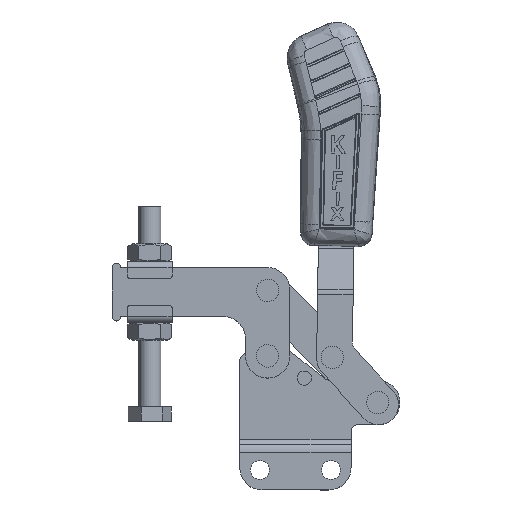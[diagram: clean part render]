
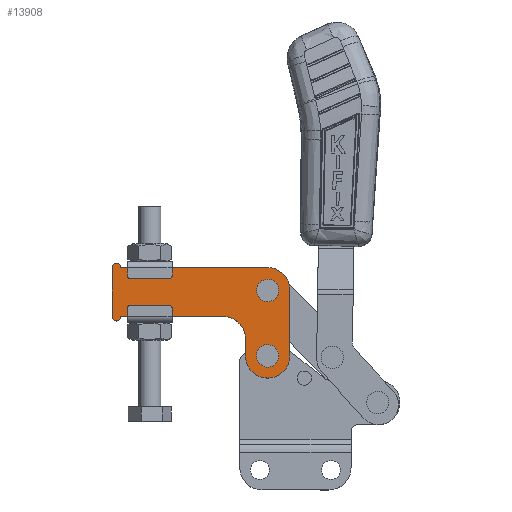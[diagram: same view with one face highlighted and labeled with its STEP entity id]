
A CAD part, top view. The second image highlights one B-rep face of the part: STEP entity #13908.
In plain terms, the highlighted planar face has unit normal (0, 0, 1) as drawn and (0, 0, -1) by its records, which use the part's own axes.
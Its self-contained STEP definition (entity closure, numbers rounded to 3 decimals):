
#452 = AXIS2_PLACEMENT_3D ( 'NONE', #15830, #4428, #17766 ) ;
#594 = CARTESIAN_POINT ( 'NONE',  ( 0., 11., -4.25 ) ) ;
#966 = LINE ( 'NONE', #16435, #14972 ) ;
#1053 = DIRECTION ( 'NONE',  ( 0., 0., 1. ) ) ;
#1580 = ORIENTED_EDGE ( 'NONE', *, *, #18122, .T. ) ;
#1714 = CIRCLE ( 'NONE', #21487, 10. ) ;
#1853 = VERTEX_POINT ( 'NONE', #18951 ) ;
#2047 = VERTEX_POINT ( 'NONE', #10025 ) ;
#2445 = AXIS2_PLACEMENT_3D ( 'NONE', #19824, #8447, #21727 ) ;
#2582 = CARTESIAN_POINT ( 'NONE',  ( 70., 28.7, -4.25 ) ) ;
#2654 = ORIENTED_EDGE ( 'NONE', *, *, #4247, .F. ) ;
#3403 = VERTEX_POINT ( 'NONE', #21213 ) ;
#4246 = DIRECTION ( 'NONE',  ( 0., -1., 0. ) ) ;
#4247 = EDGE_CURVE ( 'NONE', #16328, #12734, #17534, .T. ) ;
#4290 = DIRECTION ( 'NONE',  ( 0., -1., 0. ) ) ;
#4326 = VERTEX_POINT ( 'NONE', #12880 ) ;
#4349 = ORIENTED_EDGE ( 'NONE', *, *, #17379, .F. ) ;
#4428 = DIRECTION ( 'NONE',  ( 0., 0., -1. ) ) ;
#4478 = AXIS2_PLACEMENT_3D ( 'NONE', #14694, #18536, #7128 ) ;
#4497 = DIRECTION ( 'NONE',  ( 1., 0., 0. ) ) ;
#4506 = CARTESIAN_POINT ( 'NONE',  ( 70., -0.7, -4.25 ) ) ;
#4615 = VERTEX_POINT ( 'NONE', #10360 ) ;
#4735 = ORIENTED_EDGE ( 'NONE', *, *, #10882, .F. ) ;
#4891 = EDGE_CURVE ( 'NONE', #1853, #7510, #14223, .T. ) ;
#5140 = AXIS2_PLACEMENT_3D ( 'NONE', #12468, #1053, #14364 ) ;
#5443 = DIRECTION ( 'NONE',  ( 0., 0., 1. ) ) ;
#6372 = CARTESIAN_POINT ( 'NONE',  ( 50., 11., -4.25 ) ) ;
#6445 = ORIENTED_EDGE ( 'NONE', *, *, #14733, .F. ) ;
#6451 = DIRECTION ( 'NONE',  ( 1., 0., 0. ) ) ;
#7128 = DIRECTION ( 'NONE',  ( -1., 0., 0. ) ) ;
#7397 = CARTESIAN_POINT ( 'NONE',  ( 4., -11., -4.25 ) ) ;
#7446 = DIRECTION ( 'NONE',  ( -1., 0., 0. ) ) ;
#7510 = VERTEX_POINT ( 'NONE', #9846 ) ;
#7611 = EDGE_CURVE ( 'NONE', #18051, #19396, #23663, .T. ) ;
#7641 = VECTOR ( 'NONE', #22584, 1000. ) ;
#8447 = DIRECTION ( 'NONE',  ( 0., 0., 1. ) ) ;
#8485 = EDGE_LOOP ( 'NONE', ( #17957, #20807 ) ) ;
#9022 = CARTESIAN_POINT ( 'NONE',  ( 80., -1., -4.25 ) ) ;
#9167 = LINE ( 'NONE', #594, #14224 ) ;
#9846 = CARTESIAN_POINT ( 'NONE',  ( 60., 28.7, -4.25 ) ) ;
#9948 = EDGE_LOOP ( 'NONE', ( #2654, #4735, #16346, #13318, #10937, #6445, #18291, #4349, #23753, #10727 ) ) ;
#10025 = CARTESIAN_POINT ( 'NONE',  ( 74., -0.7, -4.25 ) ) ;
#10042 = VECTOR ( 'NONE', #20394, 1000. ) ;
#10096 = VERTEX_POINT ( 'NONE', #11581 ) ;
#10360 = CARTESIAN_POINT ( 'NONE',  ( 66., 28.7, -4.25 ) ) ;
#10382 = DIRECTION ( 'NONE',  ( 0., 0., 1. ) ) ;
#10622 = CARTESIAN_POINT ( 'NONE',  ( 70., 28.7, -4.25 ) ) ;
#10627 = EDGE_CURVE ( 'NONE', #7510, #18051, #14087, .T. ) ;
#10631 = LINE ( 'NONE', #9022, #10042 ) ;
#10727 = ORIENTED_EDGE ( 'NONE', *, *, #23838, .F. ) ;
#10740 = DIRECTION ( 'NONE',  ( 0., 0., 1. ) ) ;
#10875 = PLANE ( 'NONE',  #4478 ) ;
#10882 = EDGE_CURVE ( 'NONE', #19396, #16328, #966, .T. ) ;
#10937 = ORIENTED_EDGE ( 'NONE', *, *, #4891, .F. ) ;
#11129 = CARTESIAN_POINT ( 'NONE',  ( 66., -0.7, -4.25 ) ) ;
#11259 = CIRCLE ( 'NONE', #20254, 4. ) ;
#11581 = CARTESIAN_POINT ( 'NONE',  ( 0., -11., -4.25 ) ) ;
#12049 = CIRCLE ( 'NONE', #22571, 4. ) ;
#12468 = CARTESIAN_POINT ( 'NONE',  ( 2., -11., -4.25 ) ) ;
#12544 = DIRECTION ( 'NONE',  ( 1., 0., 0. ) ) ;
#12599 = EDGE_CURVE ( 'NONE', #10096, #13962, #21070, .T. ) ;
#12716 = VERTEX_POINT ( 'NONE', #11129 ) ;
#12734 = VERTEX_POINT ( 'NONE', #22579 ) ;
#12880 = CARTESIAN_POINT ( 'NONE',  ( 74., 28.7, -4.25 ) ) ;
#13263 = CIRCLE ( 'NONE', #21113, 4. ) ;
#13318 = ORIENTED_EDGE ( 'NONE', *, *, #10627, .F. ) ;
#13750 = CARTESIAN_POINT ( 'NONE',  ( 60., 21., -4.25 ) ) ;
#13812 = EDGE_CURVE ( 'NONE', #4615, #4326, #11259, .T. ) ;
#13908 = ADVANCED_FACE ( 'NONE', ( #20754, #20171, #21349 ), #10875, .T. ) ;
#13962 = VERTEX_POINT ( 'NONE', #17025 ) ;
#14087 = LINE ( 'NONE', #21490, #22984 ) ;
#14223 = CIRCLE ( 'NONE', #2445, 10. ) ;
#14224 = VECTOR ( 'NONE', #4246, 1000. ) ;
#14364 = DIRECTION ( 'NONE',  ( 1., 0., 0. ) ) ;
#14694 = CARTESIAN_POINT ( 'NONE',  ( 2., 11., -4.25 ) ) ;
#14733 = EDGE_CURVE ( 'NONE', #3403, #1853, #10631, .T. ) ;
#14972 = VECTOR ( 'NONE', #7446, 1000. ) ;
#15364 = AXIS2_PLACEMENT_3D ( 'NONE', #21767, #10382, #23656 ) ;
#15830 = CARTESIAN_POINT ( 'NONE',  ( 50., 21., -4.25 ) ) ;
#15906 = DIRECTION ( 'NONE',  ( 0., 0., 1. ) ) ;
#16328 = VERTEX_POINT ( 'NONE', #21908 ) ;
#16346 = ORIENTED_EDGE ( 'NONE', *, *, #7611, .F. ) ;
#16435 = CARTESIAN_POINT ( 'NONE',  ( 50., 11., -4.25 ) ) ;
#16843 = CARTESIAN_POINT ( 'NONE',  ( 70., -1., -4.25 ) ) ;
#17025 = CARTESIAN_POINT ( 'NONE',  ( 4., -11., -4.25 ) ) ;
#17379 = EDGE_CURVE ( 'NONE', #13962, #21747, #22793, .T. ) ;
#17442 = CIRCLE ( 'NONE', #24459, 4. ) ;
#17534 = CIRCLE ( 'NONE', #15364, 2. ) ;
#17766 = DIRECTION ( 'NONE',  ( -1., 0., 0. ) ) ;
#17843 = DIRECTION ( 'NONE',  ( 0., 0., 1. ) ) ;
#17911 = EDGE_LOOP ( 'NONE', ( #1580, #20900 ) ) ;
#17957 = ORIENTED_EDGE ( 'NONE', *, *, #19598, .T. ) ;
#18051 = VERTEX_POINT ( 'NONE', #13750 ) ;
#18122 = EDGE_CURVE ( 'NONE', #2047, #12716, #13263, .T. ) ;
#18291 = ORIENTED_EDGE ( 'NONE', *, *, #24096, .F. ) ;
#18536 = DIRECTION ( 'NONE',  ( 0., 0., -1. ) ) ;
#18605 = EDGE_CURVE ( 'NONE', #12716, #2047, #17442, .T. ) ;
#18769 = DIRECTION ( 'NONE',  ( 1., 0., 0. ) ) ;
#18951 = CARTESIAN_POINT ( 'NONE',  ( 80., 28.7, -4.25 ) ) ;
#19196 = CARTESIAN_POINT ( 'NONE',  ( 70., -11., -4.25 ) ) ;
#19396 = VERTEX_POINT ( 'NONE', #6372 ) ;
#19598 = EDGE_CURVE ( 'NONE', #4326, #4615, #12049, .T. ) ;
#19824 = CARTESIAN_POINT ( 'NONE',  ( 70., 28.7, -4.25 ) ) ;
#20171 = FACE_BOUND ( 'NONE', #8485, .T. ) ;
#20254 = AXIS2_PLACEMENT_3D ( 'NONE', #10622, #23883, #12544 ) ;
#20394 = DIRECTION ( 'NONE',  ( 0., 1., 0. ) ) ;
#20754 = FACE_BOUND ( 'NONE', #17911, .T. ) ;
#20807 = ORIENTED_EDGE ( 'NONE', *, *, #13812, .T. ) ;
#20900 = ORIENTED_EDGE ( 'NONE', *, *, #18605, .T. ) ;
#21070 = CIRCLE ( 'NONE', #5140, 2. ) ;
#21113 = AXIS2_PLACEMENT_3D ( 'NONE', #4506, #17843, #6451 ) ;
#21213 = CARTESIAN_POINT ( 'NONE',  ( 80., -1., -4.25 ) ) ;
#21349 = FACE_OUTER_BOUND ( 'NONE', #9948, .T. ) ;
#21487 = AXIS2_PLACEMENT_3D ( 'NONE', #16843, #5443, #18769 ) ;
#21490 = CARTESIAN_POINT ( 'NONE',  ( 60., 28.7, -4.25 ) ) ;
#21727 = DIRECTION ( 'NONE',  ( 1., 0., 0. ) ) ;
#21747 = VERTEX_POINT ( 'NONE', #19196 ) ;
#21767 = CARTESIAN_POINT ( 'NONE',  ( 2., 11., -4.25 ) ) ;
#21908 = CARTESIAN_POINT ( 'NONE',  ( 4., 11., -4.25 ) ) ;
#22103 = CARTESIAN_POINT ( 'NONE',  ( 70., -0.7, -4.25 ) ) ;
#22571 = AXIS2_PLACEMENT_3D ( 'NONE', #2582, #15906, #4497 ) ;
#22579 = CARTESIAN_POINT ( 'NONE',  ( 0., 11., -4.25 ) ) ;
#22584 = DIRECTION ( 'NONE',  ( 1., 0., 0. ) ) ;
#22793 = LINE ( 'NONE', #7397, #7641 ) ;
#22984 = VECTOR ( 'NONE', #4290, 1000. ) ;
#23656 = DIRECTION ( 'NONE',  ( -1., 0., 0. ) ) ;
#23663 = CIRCLE ( 'NONE', #452, 10. ) ;
#23753 = ORIENTED_EDGE ( 'NONE', *, *, #12599, .F. ) ;
#23838 = EDGE_CURVE ( 'NONE', #12734, #10096, #9167, .T. ) ;
#23883 = DIRECTION ( 'NONE',  ( 0., 0., 1. ) ) ;
#23995 = DIRECTION ( 'NONE',  ( 1., 0., 0. ) ) ;
#24096 = EDGE_CURVE ( 'NONE', #21747, #3403, #1714, .T. ) ;
#24459 = AXIS2_PLACEMENT_3D ( 'NONE', #22103, #10740, #23995 ) ;
